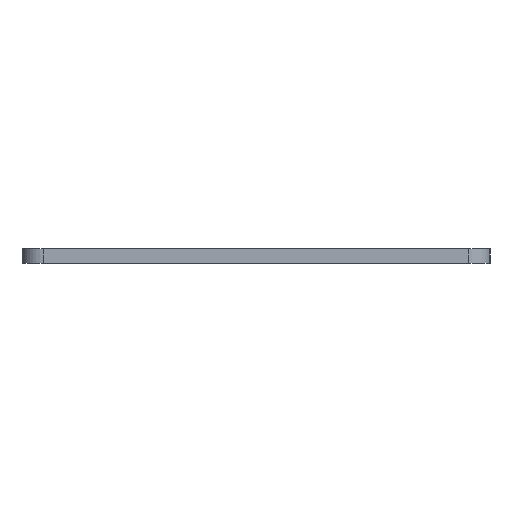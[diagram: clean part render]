
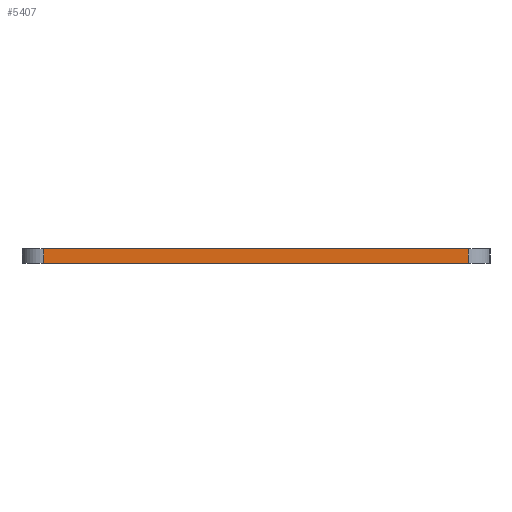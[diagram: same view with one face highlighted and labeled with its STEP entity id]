
A CAD part, left-side view. The second image highlights one B-rep face of the part: STEP entity #5407.
In plain terms, the highlighted planar face has unit normal (-1, 0, 0).
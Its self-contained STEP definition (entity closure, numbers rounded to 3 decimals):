
#333=PLANE('',#5738);
#559=FACE_OUTER_BOUND('',#859,.T.);
#859=EDGE_LOOP('',(#3824,#3825,#3826,#3827));
#1223=LINE('',#7179,#1814);
#1225=LINE('',#7185,#1816);
#1226=LINE('',#7187,#1817);
#1227=LINE('',#7188,#1818);
#1814=VECTOR('',#6044,10.);
#1816=VECTOR('',#6050,10.);
#1817=VECTOR('',#6051,10.);
#1818=VECTOR('',#6052,10.);
#2464=VERTEX_POINT('',#7176);
#2465=VERTEX_POINT('',#7178);
#2467=VERTEX_POINT('',#7184);
#2468=VERTEX_POINT('',#7186);
#3006=EDGE_CURVE('',#2464,#2465,#1223,.T.);
#3009=EDGE_CURVE('',#2467,#2464,#1225,.T.);
#3010=EDGE_CURVE('',#2468,#2467,#1226,.T.);
#3011=EDGE_CURVE('',#2468,#2465,#1227,.T.);
#3824=ORIENTED_EDGE('',*,*,#3006,.F.);
#3825=ORIENTED_EDGE('',*,*,#3009,.F.);
#3826=ORIENTED_EDGE('',*,*,#3010,.F.);
#3827=ORIENTED_EDGE('',*,*,#3011,.T.);
#5407=ADVANCED_FACE('',(#559),#333,.T.);
#5738=AXIS2_PLACEMENT_3D('',#7183,#6048,#6049);
#6044=DIRECTION('',(0.,0.,1.));
#6048=DIRECTION('center_axis',(-1.,0.,0.));
#6049=DIRECTION('ref_axis',(0.,1.,0.));
#6050=DIRECTION('',(0.,1.,0.));
#6051=DIRECTION('',(0.,0.,-1.));
#6052=DIRECTION('',(0.,1.,0.));
#7176=CARTESIAN_POINT('',(-40.,35.5,-3.));
#7178=CARTESIAN_POINT('',(-40.,35.5,0.));
#7179=CARTESIAN_POINT('',(-40.,35.5,0.));
#7183=CARTESIAN_POINT('Origin',(-40.,-57.,0.));
#7184=CARTESIAN_POINT('',(-40.,-52.5,-3.));
#7185=CARTESIAN_POINT('',(-40.,-57.,-3.));
#7186=CARTESIAN_POINT('',(-40.,-52.5,0.));
#7187=CARTESIAN_POINT('',(-40.,-52.5,0.));
#7188=CARTESIAN_POINT('',(-40.,-57.,0.));
